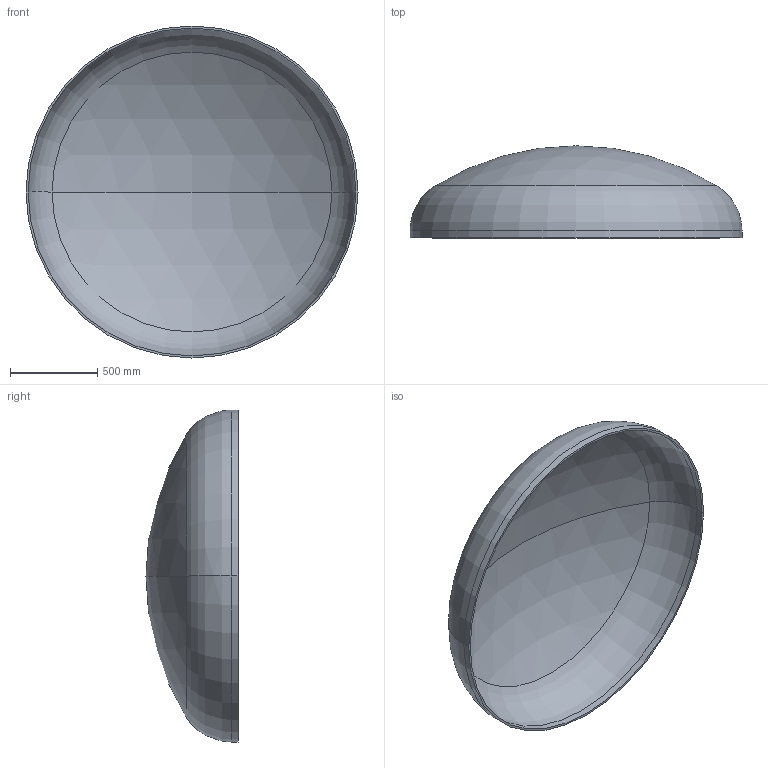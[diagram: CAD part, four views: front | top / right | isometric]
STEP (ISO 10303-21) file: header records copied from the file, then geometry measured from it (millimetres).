
FILE_DESCRIPTION (( 'STEP AP203' ), '1' );
FILE_NAME ('DIN 28013 Korbbogenform_-_Boden DIN 28013 - 1900 x 40 - I - s=12.step', '2016-07-01T12:55:03', ( '' ), ( '' ), 'SwSTEP 2.0', 'SolidWorks 2013', '' );
FILE_SCHEMA (( 'CONFIG_CONTROL_DESIGN' ));
Length unit declared in the file: millimetre
Products named in the file (1): DIN 28013 Korbbogenform_-_Boden DIN 28013 - 1900 x 40 - I - s=12
Bounding box: 1900 x 526.54 x 1900 mm (x, y, z)
Volume: 49497045.8 mm3; surface area: 8320981.9 mm2
Topology: 1 solids, 1 shells, 13 faces, 24 edges, 14 vertices
Faces by surface type: torus 4, cylinder 4, sphere 4, plane 1
Entity records: 407 total; most frequent: DIRECTION 72, CARTESIAN_POINT 52, ORIENTED_EDGE 48, AXIS2_PLACEMENT_3D 34, EDGE_CURVE 24, CIRCLE 20, VERTEX_POINT 14, EDGE_LOOP 14
